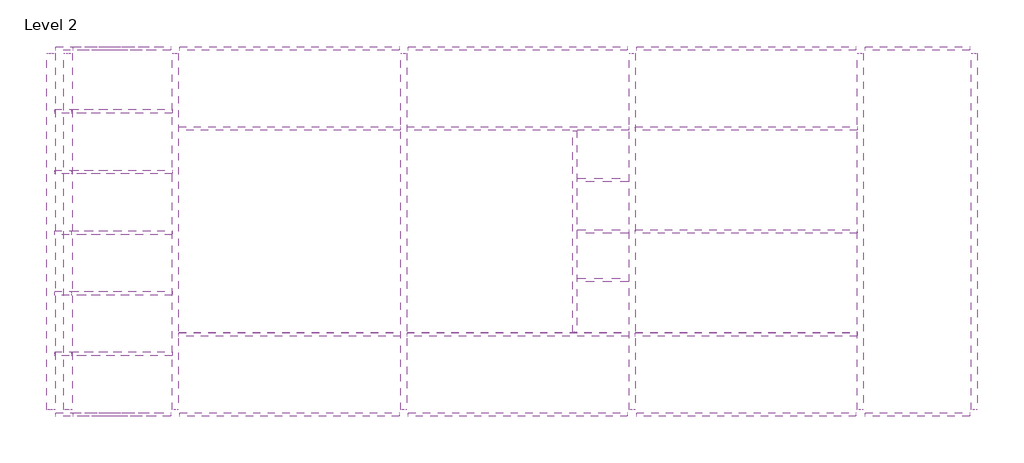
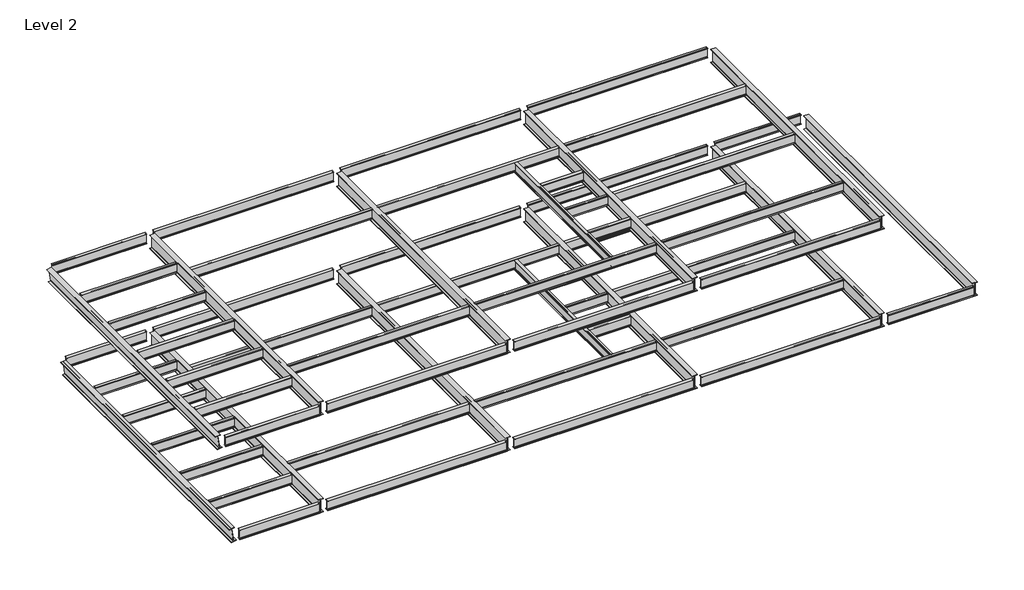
# One storey: 61 beams.
"""IFC4 building model written with IfcOpenShell, lengths in millimetres."""

from ifc_helpers import new_model, si_unit, origin, place, context, project, spatial, transform, mapped, element, save
from components import w_shapes_w21x57_65947765, w_shapes_w21x57_76d5891c, w_shapes_w21x57_2c3ae1b6, w_shapes_w21x57_840b16e6, w_shapes_w21x57_eb867012, w_shapes_w21x57_61476ac7, w_shapes_w21x57_323fc9cd, w_shapes_w21x57_38f1f711, w_shapes_w21x57_1adb2465, w_shapes_w21x57_2037f795, w_shapes_w21x57_4362a108, w_shapes_w21x57_55c37454, w_shapes_w21x57_7ce624f6, w_shapes_w30x124_41c3317b, w_shapes_w30x124_dbd2c16d

model = new_model("IFC4")

# Units and contexts
model_context = context("Model", 3, world=origin())
ifc_project = project(units=[si_unit("LENGTHUNIT", "METRE", prefix="MILLI")], contexts=[model_context])

# Site, building, storey
site = spatial("IfcSite", under=ifc_project)
building = spatial("IfcBuilding", under=site)
storey = spatial("IfcBuildingStorey", under=building, Name="Level 2", Elevation=3000.0)

# Beams
placement = place(None, origin())
w_shapes_w21x57_shape = w_shapes_w21x57_65947765(model_context)
element("IfcBeam", 1, ObjectType="W Shapes : W21X57", at=placement, inside=storey, context=model_context, shape_type="MappedRepresentation", body=[
    mapped(w_shapes_w21x57_shape, transform((39072.7, -14635.0, 5232.03), x_axis=(-1.0, 0.0, 0.0), y_axis=(0.0, -1.0, 0.0), z_axis=(0.0, 0.0, 1.0))),
])
element("IfcBeam", 2, ObjectType="W Shapes : W21X57", at=placement, inside=storey, context=model_context, shape_type="MappedRepresentation", body=[
    mapped(w_shapes_w21x57_shape, transform((39072.7, 1365.0, 5232.03), x_axis=(1.0, 0.0, 0.0), y_axis=(0.0, 1.0, 0.0), z_axis=(0.0, 0.0, 1.0))),
])
w_shapes_w21x57_2_shape = w_shapes_w21x57_76d5891c(model_context)
element("IfcBeam", 3, ObjectType="W Shapes : W21X57", at=placement, inside=storey, context=model_context, shape_type="MappedRepresentation", body=[
    mapped(w_shapes_w21x57_2_shape, transform((4197.5, -9335.0, 5232.03), x_axis=(1.0, 0.0, 0.0), y_axis=(0.0, 1.0, 0.0), z_axis=(0.0, 0.0, 1.0))),
])
element("IfcBeam", 4, ObjectType="W Shapes : W21X57", at=placement, inside=storey, context=model_context, shape_type="MappedRepresentation", body=[
    mapped(w_shapes_w21x57_2_shape, transform((4197.5, -6685.0, 5232.03), x_axis=(1.0, 0.0, 0.0), y_axis=(0.0, 1.0, 0.0), z_axis=(0.0, 0.0, 1.0))),
])
element("IfcBeam", 5, ObjectType="W Shapes : W21X57", at=placement, inside=storey, context=model_context, shape_type="MappedRepresentation", body=[
    mapped(w_shapes_w21x57_2_shape, transform((4197.5, -4035.0, 5232.03), x_axis=(1.0, 0.0, 0.0), y_axis=(0.0, 1.0, 0.0), z_axis=(0.0, 0.0, 1.0))),
])
element("IfcBeam", 6, ObjectType="W Shapes : W21X57", at=placement, inside=storey, context=model_context, shape_type="MappedRepresentation", body=[
    mapped(w_shapes_w21x57_2_shape, transform((4197.5, -1385.0, 5232.03), x_axis=(1.0, 0.0, 0.0), y_axis=(0.0, 1.0, 0.0), z_axis=(0.0, 0.0, 1.0))),
])
element("IfcBeam", 7, ObjectType="W Shapes : W21X57", at=placement, inside=storey, context=model_context, shape_type="MappedRepresentation", body=[
    mapped(w_shapes_w21x57_2_shape, transform((4197.5, -11985.0, 5232.03), x_axis=(1.0, 0.0, 0.0), y_axis=(0.0, 1.0, 0.0), z_axis=(0.0, 0.0, 1.0))),
])
w_shapes_w21x57_3_shape = w_shapes_w21x57_2c3ae1b6(model_context)
element("IfcBeam", 8, ObjectType="W Shapes : W21X57", at=placement, inside=storey, context=model_context, shape_type="MappedRepresentation", body=[
    mapped(w_shapes_w21x57_3_shape, transform((24099.4, -6572.5, 10732.03), x_axis=(0.0, -1.0, 0.0), y_axis=(1.0, 0.0, 0.0), z_axis=(0.0, 0.0, 1.0))),
])
element("IfcBeam", 9, ObjectType="W Shapes : W21X57", at=placement, inside=storey, context=model_context, shape_type="MappedRepresentation", body=[
    mapped(w_shapes_w21x57_3_shape, transform((24099.4, -6572.5, 5232.03), x_axis=(0.0, -1.0, 0.0), y_axis=(1.0, 0.0, 0.0), z_axis=(0.0, 0.0, 1.0))),
])
w_shapes_w21x57_4_shape = w_shapes_w21x57_840b16e6(model_context)
element("IfcBeam", 10, ObjectType="W Shapes : W21X57", at=placement, inside=storey, context=model_context, shape_type="MappedRepresentation", body=[
    mapped(w_shapes_w21x57_4_shape, transform((25349.4, -6635.0, 10732.03), x_axis=(1.0, 0.0, 0.0), y_axis=(0.0, 1.0, 0.0), z_axis=(0.0, 0.0, 1.0))),
])
element("IfcBeam", 11, ObjectType="W Shapes : W21X57", at=placement, inside=storey, context=model_context, shape_type="MappedRepresentation", body=[
    mapped(w_shapes_w21x57_4_shape, transform((25349.4, -6635.0, 5232.03), x_axis=(1.0, 0.0, 0.0), y_axis=(0.0, 1.0, 0.0), z_axis=(0.0, 0.0, 1.0))),
])
w_shapes_w21x57_5_shape = w_shapes_w21x57_eb867012(model_context)
element("IfcBeam", 12, ObjectType="W Shapes : W21X57", at=placement, inside=storey, context=model_context, shape_type="MappedRepresentation", body=[
    mapped(w_shapes_w21x57_5_shape, transform((25286.9, -4385.0, 10732.03), x_axis=(1.0, 0.0, 0.0), y_axis=(0.0, 1.0, 0.0), z_axis=(0.0, 0.0, 1.0))),
])
element("IfcBeam", 13, ObjectType="W Shapes : W21X57", at=placement, inside=storey, context=model_context, shape_type="MappedRepresentation", body=[
    mapped(w_shapes_w21x57_5_shape, transform((25286.9, -8760.0, 10732.03), x_axis=(1.0, 0.0, 0.0), y_axis=(0.0, 1.0, 0.0), z_axis=(0.0, 0.0, 1.0))),
])
element("IfcBeam", 14, ObjectType="W Shapes : W21X57", at=placement, inside=storey, context=model_context, shape_type="MappedRepresentation", body=[
    mapped(w_shapes_w21x57_5_shape, transform((25286.9, -4385.0, 5232.03), x_axis=(1.0, 0.0, 0.0), y_axis=(0.0, 1.0, 0.0), z_axis=(0.0, 0.0, 1.0))),
])
element("IfcBeam", 15, ObjectType="W Shapes : W21X57", at=placement, inside=storey, context=model_context, shape_type="MappedRepresentation", body=[
    mapped(w_shapes_w21x57_5_shape, transform((25286.9, -8760.0, 5232.03), x_axis=(1.0, 0.0, 0.0), y_axis=(0.0, 1.0, 0.0), z_axis=(0.0, 0.0, 1.0))),
])
w_shapes_w21x57_6_shape = w_shapes_w21x57_61476ac7(model_context)
element("IfcBeam", 16, ObjectType="W Shapes : W21X57", at=placement, inside=storey, context=model_context, shape_type="MappedRepresentation", body=[
    mapped(w_shapes_w21x57_6_shape, transform((3822.5, -11985.0, 10732.03), x_axis=(1.0, 0.0, 0.0), y_axis=(0.0, 1.0, 0.0), z_axis=(0.0, 0.0, 1.0))),
])
element("IfcBeam", 17, ObjectType="W Shapes : W21X57", at=placement, inside=storey, context=model_context, shape_type="MappedRepresentation", body=[
    mapped(w_shapes_w21x57_6_shape, transform((3822.5, -9335.0, 10732.03), x_axis=(1.0, 0.0, 0.0), y_axis=(0.0, 1.0, 0.0), z_axis=(0.0, 0.0, 1.0))),
])
element("IfcBeam", 18, ObjectType="W Shapes : W21X57", at=placement, inside=storey, context=model_context, shape_type="MappedRepresentation", body=[
    mapped(w_shapes_w21x57_6_shape, transform((3822.5, -6685.0, 10732.03), x_axis=(1.0, 0.0, 0.0), y_axis=(0.0, 1.0, 0.0), z_axis=(0.0, 0.0, 1.0))),
])
element("IfcBeam", 19, ObjectType="W Shapes : W21X57", at=placement, inside=storey, context=model_context, shape_type="MappedRepresentation", body=[
    mapped(w_shapes_w21x57_6_shape, transform((3822.5, -4035.0, 10732.03), x_axis=(1.0, 0.0, 0.0), y_axis=(0.0, 1.0, 0.0), z_axis=(0.0, 0.0, 1.0))),
])
element("IfcBeam", 20, ObjectType="W Shapes : W21X57", at=placement, inside=storey, context=model_context, shape_type="MappedRepresentation", body=[
    mapped(w_shapes_w21x57_6_shape, transform((3822.5, -1385.0, 10732.03), x_axis=(1.0, 0.0, 0.0), y_axis=(0.0, 1.0, 0.0), z_axis=(0.0, 0.0, 1.0))),
])
w_shapes_w21x57_7_shape = w_shapes_w21x57_323fc9cd(model_context)
element("IfcBeam", 21, ObjectType="W Shapes : W21X57", at=placement, inside=storey, context=model_context, shape_type="MappedRepresentation", body=[
    mapped(w_shapes_w21x57_7_shape, transform((21608.3, -14635.0, 5232.03), x_axis=(-1.0, 0.0, 0.0), y_axis=(0.0, -1.0, 0.0), z_axis=(0.0, 0.0, 1.0))),
])
element("IfcBeam", 22, ObjectType="W Shapes : W21X57", at=placement, inside=storey, context=model_context, shape_type="MappedRepresentation", body=[
    mapped(w_shapes_w21x57_7_shape, transform((11626.1, -14635.0, 5232.03), x_axis=(-1.0, 0.0, 0.0), y_axis=(0.0, -1.0, 0.0), z_axis=(0.0, 0.0, 1.0))),
])
element("IfcBeam", 23, ObjectType="W Shapes : W21X57", at=placement, inside=storey, context=model_context, shape_type="MappedRepresentation", body=[
    mapped(w_shapes_w21x57_7_shape, transform((11626.1, 1365.0, 5232.03), x_axis=(1.0, 0.0, 0.0), y_axis=(0.0, 1.0, 0.0), z_axis=(0.0, 0.0, 1.0))),
])
element("IfcBeam", 24, ObjectType="W Shapes : W21X57", at=placement, inside=storey, context=model_context, shape_type="MappedRepresentation", body=[
    mapped(w_shapes_w21x57_7_shape, transform((21608.3, 1365.0, 5232.03), x_axis=(1.0, 0.0, 0.0), y_axis=(0.0, 1.0, 0.0), z_axis=(0.0, 0.0, 1.0))),
])
element("IfcBeam", 25, ObjectType="W Shapes : W21X57", at=placement, inside=storey, context=model_context, shape_type="MappedRepresentation", body=[
    mapped(w_shapes_w21x57_7_shape, transform((31590.5, 1365.0, 5232.03), x_axis=(1.0, 0.0, 0.0), y_axis=(0.0, 1.0, 0.0), z_axis=(0.0, 0.0, 1.0))),
])
element("IfcBeam", 26, ObjectType="W Shapes : W21X57", at=placement, inside=storey, context=model_context, shape_type="MappedRepresentation", body=[
    mapped(w_shapes_w21x57_7_shape, transform((31590.5, -14635.0, 10732.03), x_axis=(-1.0, 0.0, 0.0), y_axis=(0.0, -1.0, 0.0), z_axis=(0.0, 0.0, 1.0))),
])
element("IfcBeam", 27, ObjectType="W Shapes : W21X57", at=placement, inside=storey, context=model_context, shape_type="MappedRepresentation", body=[
    mapped(w_shapes_w21x57_7_shape, transform((21608.3, -14635.0, 10732.03), x_axis=(-1.0, 0.0, 0.0), y_axis=(0.0, -1.0, 0.0), z_axis=(0.0, 0.0, 1.0))),
])
element("IfcBeam", 28, ObjectType="W Shapes : W21X57", at=placement, inside=storey, context=model_context, shape_type="MappedRepresentation", body=[
    mapped(w_shapes_w21x57_7_shape, transform((11626.1, -14635.0, 10732.03), x_axis=(-1.0, 0.0, 0.0), y_axis=(0.0, -1.0, 0.0), z_axis=(0.0, 0.0, 1.0))),
])
element("IfcBeam", 29, ObjectType="W Shapes : W21X57", at=placement, inside=storey, context=model_context, shape_type="MappedRepresentation", body=[
    mapped(w_shapes_w21x57_7_shape, transform((11626.1, 1365.0, 10732.03), x_axis=(1.0, 0.0, 0.0), y_axis=(0.0, 1.0, 0.0), z_axis=(0.0, 0.0, 1.0))),
])
element("IfcBeam", 30, ObjectType="W Shapes : W21X57", at=placement, inside=storey, context=model_context, shape_type="MappedRepresentation", body=[
    mapped(w_shapes_w21x57_7_shape, transform((21608.3, 1365.0, 10732.03), x_axis=(1.0, 0.0, 0.0), y_axis=(0.0, 1.0, 0.0), z_axis=(0.0, 0.0, 1.0))),
])
element("IfcBeam", 31, ObjectType="W Shapes : W21X57", at=placement, inside=storey, context=model_context, shape_type="MappedRepresentation", body=[
    mapped(w_shapes_w21x57_7_shape, transform((31590.5, 1365.0, 10732.03), x_axis=(1.0, 0.0, 0.0), y_axis=(0.0, 1.0, 0.0), z_axis=(0.0, 0.0, 1.0))),
])
element("IfcBeam", 32, ObjectType="W Shapes : W21X57", at=placement, inside=storey, context=model_context, shape_type="MappedRepresentation", body=[
    mapped(w_shapes_w21x57_7_shape, transform((31590.5, -14635.0, 5232.03), x_axis=(-1.0, 0.0, 0.0), y_axis=(0.0, -1.0, 0.0), z_axis=(0.0, 0.0, 1.0))),
])
w_shapes_w21x57_8_shape = w_shapes_w21x57_38f1f711(model_context)
element("IfcBeam", 33, ObjectType="W Shapes : W21X57", at=placement, inside=storey, context=model_context, shape_type="MappedRepresentation", body=[
    mapped(w_shapes_w21x57_8_shape, transform((4260.0, -14635.0, 5232.03), x_axis=(-1.0, 0.0, 0.0), y_axis=(0.0, -1.0, 0.0), z_axis=(0.0, 0.0, 1.0))),
])
w_shapes_w21x57_9_shape = w_shapes_w21x57_1adb2465(model_context)
element("IfcBeam", 34, ObjectType="W Shapes : W21X57", at=placement, inside=storey, context=model_context, shape_type="MappedRepresentation", body=[
    mapped(w_shapes_w21x57_9_shape, transform((4260.0, 1365.0, 5232.03), x_axis=(1.0, 0.0, 0.0), y_axis=(0.0, 1.0, 0.0), z_axis=(0.0, 0.0, 1.0))),
])
w_shapes_w21x57_10_shape = w_shapes_w21x57_2037f795(model_context)
element("IfcBeam", 35, ObjectType="W Shapes : W21X57", at=placement, inside=storey, context=model_context, shape_type="MappedRepresentation", body=[
    mapped(w_shapes_w21x57_10_shape, transform((3885.0, -14635.0, 10732.03), x_axis=(-1.0, 0.0, 0.0), y_axis=(0.0, -1.0, 0.0), z_axis=(0.0, 0.0, 1.0))),
])
w_shapes_w21x57_11_shape = w_shapes_w21x57_4362a108(model_context)
element("IfcBeam", 36, ObjectType="W Shapes : W21X57", at=placement, inside=storey, context=model_context, shape_type="MappedRepresentation", body=[
    mapped(w_shapes_w21x57_11_shape, transform((3885.0, 1365.0, 10732.03), x_axis=(1.0, 0.0, 0.0), y_axis=(0.0, 1.0, 0.0), z_axis=(0.0, 0.0, 1.0))),
])
w_shapes_w21x57_12_shape = w_shapes_w21x57_55c37454(model_context)
element("IfcBeam", 37, ObjectType="W Shapes : W21X57", at=placement, inside=storey, context=model_context, shape_type="MappedRepresentation", body=[
    mapped(w_shapes_w21x57_12_shape, transform((31590.5, -11135.0, 5232.03), x_axis=(-1.0, 0.0, 0.0), y_axis=(0.0, -1.0, 0.0), z_axis=(0.0, 0.0, 1.0))),
])
element("IfcBeam", 38, ObjectType="W Shapes : W21X57", at=placement, inside=storey, context=model_context, shape_type="MappedRepresentation", body=[
    mapped(w_shapes_w21x57_12_shape, transform((21608.3, -11135.0, 5232.03), x_axis=(-1.0, 0.0, 0.0), y_axis=(0.0, -1.0, 0.0), z_axis=(0.0, 0.0, 1.0))),
])
element("IfcBeam", 39, ObjectType="W Shapes : W21X57", at=placement, inside=storey, context=model_context, shape_type="MappedRepresentation", body=[
    mapped(w_shapes_w21x57_12_shape, transform((31590.5, -2135.0, 5232.03), x_axis=(-1.0, 0.0, 0.0), y_axis=(0.0, -1.0, 0.0), z_axis=(0.0, 0.0, 1.0))),
])
element("IfcBeam", 40, ObjectType="W Shapes : W21X57", at=placement, inside=storey, context=model_context, shape_type="MappedRepresentation", body=[
    mapped(w_shapes_w21x57_12_shape, transform((21608.3, -2135.0, 5232.03), x_axis=(-1.0, 0.0, 0.0), y_axis=(0.0, -1.0, 0.0), z_axis=(0.0, 0.0, 1.0))),
])
element("IfcBeam", 41, ObjectType="W Shapes : W21X57", at=placement, inside=storey, context=model_context, shape_type="MappedRepresentation", body=[
    mapped(w_shapes_w21x57_12_shape, transform((31590.5, -2135.0, 10732.03), x_axis=(-1.0, 0.0, 0.0), y_axis=(0.0, -1.0, 0.0), z_axis=(0.0, 0.0, 1.0))),
])
element("IfcBeam", 42, ObjectType="W Shapes : W21X57", at=placement, inside=storey, context=model_context, shape_type="MappedRepresentation", body=[
    mapped(w_shapes_w21x57_12_shape, transform((21608.3, -2135.0, 10732.03), x_axis=(-1.0, 0.0, 0.0), y_axis=(0.0, -1.0, 0.0), z_axis=(0.0, 0.0, 1.0))),
])
element("IfcBeam", 43, ObjectType="W Shapes : W21X57", at=placement, inside=storey, context=model_context, shape_type="MappedRepresentation", body=[
    mapped(w_shapes_w21x57_12_shape, transform((31590.5, -11135.0, 10732.03), x_axis=(-1.0, 0.0, 0.0), y_axis=(0.0, -1.0, 0.0), z_axis=(0.0, 0.0, 1.0))),
])
element("IfcBeam", 44, ObjectType="W Shapes : W21X57", at=placement, inside=storey, context=model_context, shape_type="MappedRepresentation", body=[
    mapped(w_shapes_w21x57_12_shape, transform((21608.3, -11135.0, 10732.03), x_axis=(-1.0, 0.0, 0.0), y_axis=(0.0, -1.0, 0.0), z_axis=(0.0, 0.0, 1.0))),
])
w_shapes_w21x57_13_shape = w_shapes_w21x57_7ce624f6(model_context)
element("IfcBeam", 45, ObjectType="W Shapes : W21X57", at=placement, inside=storey, context=model_context, shape_type="MappedRepresentation", body=[
    mapped(w_shapes_w21x57_13_shape, transform((11688.6, -11135.0, 5232.03), x_axis=(-1.0, 0.0, 0.0), y_axis=(0.0, -1.0, 0.0), z_axis=(0.0, 0.0, 1.0))),
])
element("IfcBeam", 46, ObjectType="W Shapes : W21X57", at=placement, inside=storey, context=model_context, shape_type="MappedRepresentation", body=[
    mapped(w_shapes_w21x57_13_shape, transform((11688.6, -2135.0, 5232.03), x_axis=(-1.0, 0.0, 0.0), y_axis=(0.0, -1.0, 0.0), z_axis=(0.0, 0.0, 1.0))),
])
element("IfcBeam", 47, ObjectType="W Shapes : W21X57", at=placement, inside=storey, context=model_context, shape_type="MappedRepresentation", body=[
    mapped(w_shapes_w21x57_13_shape, transform((11688.6, -2135.0, 10732.03), x_axis=(-1.0, 0.0, 0.0), y_axis=(0.0, -1.0, 0.0), z_axis=(0.0, 0.0, 1.0))),
])
element("IfcBeam", 48, ObjectType="W Shapes : W21X57", at=placement, inside=storey, context=model_context, shape_type="MappedRepresentation", body=[
    mapped(w_shapes_w21x57_13_shape, transform((11688.6, -11135.0, 10732.03), x_axis=(-1.0, 0.0, 0.0), y_axis=(0.0, -1.0, 0.0), z_axis=(0.0, 0.0, 1.0))),
])
element("IfcBeam", 49, ObjectType="W Shapes : W21X57", at=placement, inside=storey, context=model_context, shape_type="MappedRepresentation", body=[
    mapped(w_shapes_w21x57_13_shape, transform((31528.0, -6635.0, 10732.03), x_axis=(1.0, 0.0, 0.0), y_axis=(0.0, 1.0, 0.0), z_axis=(0.0, 0.0, 1.0))),
])
element("IfcBeam", 50, ObjectType="W Shapes : W21X57", at=placement, inside=storey, context=model_context, shape_type="MappedRepresentation", body=[
    mapped(w_shapes_w21x57_13_shape, transform((31528.0, -6635.0, 5232.03), x_axis=(1.0, 0.0, 0.0), y_axis=(0.0, 1.0, 0.0), z_axis=(0.0, 0.0, 1.0))),
])
w_shapes_w30x124_shape = w_shapes_w30x124_41c3317b(model_context)
element("IfcBeam", 51, ObjectType="W Shapes : W30X124", at=placement, inside=storey, context=model_context, shape_type="MappedRepresentation", body=[
    mapped(w_shapes_w30x124_shape, transform((16617.2, -6635.0, 5116.46), x_axis=(0.0, 1.0, 0.0), y_axis=(-1.0, 0.0, 0.0), z_axis=(0.0, 0.0, 1.0))),
])
element("IfcBeam", 52, ObjectType="W Shapes : W30X124", at=placement, inside=storey, context=model_context, shape_type="MappedRepresentation", body=[
    mapped(w_shapes_w30x124_shape, transform((26599.4, -6635.0, 5116.46), x_axis=(0.0, 1.0, 0.0), y_axis=(-1.0, 0.0, 0.0), z_axis=(0.0, 0.0, 1.0))),
])
element("IfcBeam", 53, ObjectType="W Shapes : W30X124", at=placement, inside=storey, context=model_context, shape_type="MappedRepresentation", body=[
    mapped(w_shapes_w30x124_shape, transform((36581.6, -6635.0, 10616.46), x_axis=(0.0, -1.0, 0.0), y_axis=(1.0, 0.0, 0.0), z_axis=(0.0, 0.0, 1.0))),
])
element("IfcBeam", 54, ObjectType="W Shapes : W30X124", at=placement, inside=storey, context=model_context, shape_type="MappedRepresentation", body=[
    mapped(w_shapes_w30x124_shape, transform((6635.0, -6635.0, 10616.46), x_axis=(0.0, 1.0, 0.0), y_axis=(-1.0, 0.0, 0.0), z_axis=(0.0, 0.0, 1.0))),
])
element("IfcBeam", 55, ObjectType="W Shapes : W30X124", at=placement, inside=storey, context=model_context, shape_type="MappedRepresentation", body=[
    mapped(w_shapes_w30x124_shape, transform((16617.2, -6635.0, 10616.46), x_axis=(0.0, 1.0, 0.0), y_axis=(-1.0, 0.0, 0.0), z_axis=(0.0, 0.0, 1.0))),
])
element("IfcBeam", 56, ObjectType="W Shapes : W30X124", at=placement, inside=storey, context=model_context, shape_type="MappedRepresentation", body=[
    mapped(w_shapes_w30x124_shape, transform((26599.4, -6635.0, 10616.46), x_axis=(0.0, 1.0, 0.0), y_axis=(-1.0, 0.0, 0.0), z_axis=(0.0, 0.0, 1.0))),
])
element("IfcBeam", 57, ObjectType="W Shapes : W30X124", at=placement, inside=storey, context=model_context, shape_type="MappedRepresentation", body=[
    mapped(w_shapes_w30x124_shape, transform((41563.8, -6635.0, 5116.46), x_axis=(0.0, -1.0, 0.0), y_axis=(1.0, 0.0, 0.0), z_axis=(0.0, 0.0, 1.0))),
])
element("IfcBeam", 58, ObjectType="W Shapes : W30X124", at=placement, inside=storey, context=model_context, shape_type="MappedRepresentation", body=[
    mapped(w_shapes_w30x124_shape, transform((36581.6, -6635.0, 5116.46), x_axis=(0.0, -1.0, 0.0), y_axis=(1.0, 0.0, 0.0), z_axis=(0.0, 0.0, 1.0))),
])
element("IfcBeam", 59, ObjectType="W Shapes : W30X124", at=placement, inside=storey, context=model_context, shape_type="MappedRepresentation", body=[
    mapped(w_shapes_w30x124_shape, transform((6635.0, -6635.0, 5116.46), x_axis=(0.0, 1.0, 0.0), y_axis=(-1.0, 0.0, 0.0), z_axis=(0.0, 0.0, 1.0))),
])
w_shapes_w30x124_2_shape = w_shapes_w30x124_dbd2c16d(model_context)
element("IfcBeam", 60, ObjectType="W Shapes : W30X124", at=placement, inside=storey, context=model_context, shape_type="MappedRepresentation", body=[
    mapped(w_shapes_w30x124_2_shape, transform((1188.3684469, -6635.0, 10620.191179), x_axis=(0.0, 1.0000000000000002, 0.0), y_axis=(-0.9902717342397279, 0.0, -0.13914701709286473), z_axis=(-0.13914701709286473, 0.0, 0.9902717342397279))),
])
element("IfcBeam", 61, ObjectType="W Shapes : W30X124", at=placement, inside=storey, context=model_context, shape_type="MappedRepresentation", body=[
    mapped(w_shapes_w30x124_2_shape, transform((1938.3684469, -6635.0, 5120.191179), x_axis=(0.0, 1.0000000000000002, 0.0), y_axis=(-0.9902717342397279, 0.0, -0.13914701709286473), z_axis=(-0.13914701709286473, 0.0, 0.9902717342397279))),
])

save(model, "model.ifc")
